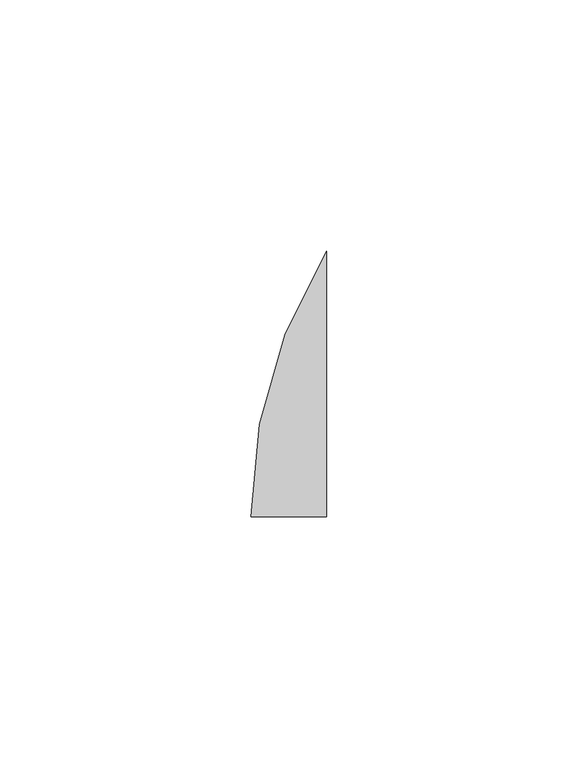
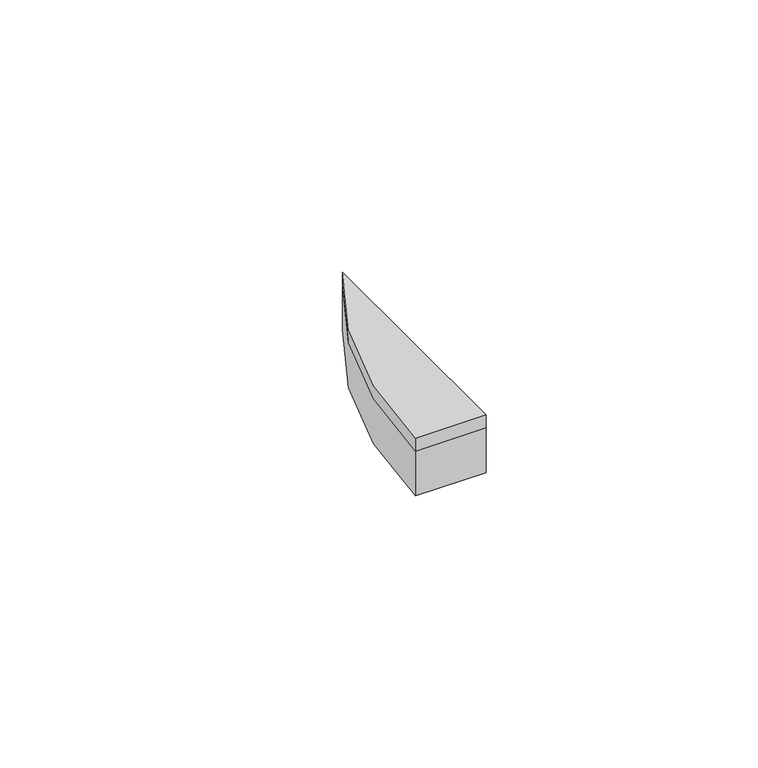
"""IFC4 building model written with IfcOpenShell, lengths in millimetres: proxy geometry, FilzFelt_Fish_Block : Fish Block."""

import ifcopenshell
import ifcopenshell.guid

model = None  # the IFC model being written
_history = None  # IfcOwnerHistory: only IFC2X3 demands one
_inside = {}  # id of a spatial element -> (the spatial element, [elements in it])
_under = {}  # id of a project, library or spatial element -> (it, [spatial elements below it])
_declared = {}  # id of a project -> (the project, [libraries it declares])
_typed = {}  # id of a type object -> (the type object, [elements of that type])
_made_of = {}  # id of a material, layer set ... -> (it, [elements and type objects made of it])


def new_model(schema):
    """Start an empty IFC model of exactly this schema.

    Asked for "IFC4X3", IfcOpenShell would pick the latest addendum, in which some entities
    have other attributes; the version numbers below select the first issue.
    IFC2X3 requires an IfcOwnerHistory on every rooted entity: one is made here for all.
    """
    global model, _history
    if schema == "IFC4X3":
        model = ifcopenshell.file(schema_version=(4, 3, 0, 0))
    else:
        model = ifcopenshell.file(schema=schema)
    _inside.clear()
    _under.clear()
    _declared.clear()
    _typed.clear()
    _made_of.clear()
    _history = None
    if model.schema == "IFC2X3":
        org = make("IfcOrganization", Name="unknown")
        user = make(
            "IfcPersonAndOrganization",
            ThePerson=make("IfcPerson", FamilyName="unknown"),
            TheOrganization=org,
        )
        app = make(
            "IfcApplication",
            ApplicationDeveloper=org,
            Version="unknown",
            ApplicationFullName="unknown",
            ApplicationIdentifier="unknown",
        )
        _history = make(
            "IfcOwnerHistory",
            OwningUser=user,
            OwningApplication=app,
            ChangeAction="ADDED",
            CreationDate=0,
        )
    return model


def make(cls, **values):
    """One entity of the class cls with the attributes given. An attribute that is None is left unset."""
    return model.create_entity(
        cls, **{name: value for name, value in values.items() if value is not None}
    )


def rooted(cls, **values):
    """An entity with a GlobalId (a new one), such as an element, a storey or a relation."""
    return make(cls, GlobalId=ifcopenshell.guid.new(), OwnerHistory=_history, **values)


def si_unit(unit_type, name, prefix=None):
    """IfcSIUnit, for example si_unit("LENGTHUNIT", "METRE", prefix="MILLI")."""
    return make("IfcSIUnit", UnitType=unit_type, Prefix=prefix, Name=name)


def assignment(units):
    """IfcUnitAssignment: the units of a project."""
    return None if units is None else make("IfcUnitAssignment", Units=units)


def point(xyz):
    """IfcCartesianPoint."""
    return None if xyz is None else make("IfcCartesianPoint", Coordinates=xyz)


def direction(xyz):
    """IfcDirection."""
    return None if xyz is None else make("IfcDirection", DirectionRatios=xyz)


def frame(location, z_axis=None, x_axis=None):
    """IfcAxis2Placement3D, a coordinate frame: its origin and axes. An axis left out is left unset."""
    return make(
        "IfcAxis2Placement3D",
        Location=point(location),
        Axis=direction(z_axis),
        RefDirection=direction(x_axis),
    )


def frame_2d(location, x_axis=None):
    """IfcAxis2Placement2D, a coordinate frame in the plane: its origin and x axis."""
    return make(
        "IfcAxis2Placement2D", Location=point(location), RefDirection=direction(x_axis)
    )


def origin():
    """The frame at (0, 0, 0) with its axes left unset."""
    return frame((0.0, 0.0, 0.0))


def origin_with_axes():
    """The frame at (0, 0, 0) with the z axis (0, 0, 1) and the x axis (1, 0, 0) written out."""
    return frame((0.0, 0.0, 0.0), z_axis=(0.0, 0.0, 1.0), x_axis=(1.0, 0.0, 0.0))


def place(relative_to, where):
    """IfcLocalPlacement: puts the frame where relative to a parent placement (None: the world)."""
    return make(
        "IfcLocalPlacement", PlacementRelTo=relative_to, RelativePlacement=where
    )


def context(
    kind, dimensions, precision=None, world=None, true_north=None, identifier=None
):
    """IfcGeometricRepresentationContext, for example the 3D "Model" context."""
    return make(
        "IfcGeometricRepresentationContext",
        ContextIdentifier=identifier,
        ContextType=kind,
        CoordinateSpaceDimension=dimensions,
        Precision=precision,
        WorldCoordinateSystem=world,
        TrueNorth=true_north,
    )


def project(units=None, contexts=None):
    """IfcProject with its units and contexts."""
    return rooted(
        "IfcProject",
        Name="project",
        RepresentationContexts=contexts,
        UnitsInContext=assignment(units),
    )


def spatial(cls, under=None, at=None, **own):
    """A site, building, storey or space (cls), placed at a placement, below another one or the project."""
    s = rooted(cls, ObjectPlacement=at, **own)
    if under is not None:
        _under.setdefault(under.id(), (under, []))[1].append(s)
    return s


def polyline(points):
    """IfcPolyline through the points."""
    return make("IfcPolyline", Points=[point(p) for p in points])


def circle_curve(where, radius):
    """IfcCircle in the frame where."""
    return make("IfcCircle", Position=where, Radius=radius)


def trimmed(basis, trim1, trim2, sense, master):
    """IfcTrimmedCurve: the piece of a basis curve between two trims."""
    return make(
        "IfcTrimmedCurve",
        BasisCurve=basis,
        Trim1=trim1,
        Trim2=trim2,
        SenseAgreement=sense,
        MasterRepresentation=master,
    )


def segment(curve, same_sense, transition):
    """IfcCompositeCurveSegment."""
    return make(
        "IfcCompositeCurveSegment",
        Transition=transition,
        SameSense=same_sense,
        ParentCurve=curve,
    )


def composite_curve(segments, self_intersect=None):
    """IfcCompositeCurve: segments joined end to end."""
    return make("IfcCompositeCurve", Segments=segments, SelfIntersect=self_intersect)


def outline(outer, holes=None, kind="AREA"):
    """IfcArbitraryClosedProfileDef: a profile drawn as a closed curve; with holes, ...WithVoids."""
    if holes is None:
        return make("IfcArbitraryClosedProfileDef", ProfileType=kind, OuterCurve=outer)
    return make(
        "IfcArbitraryProfileDefWithVoids",
        ProfileType=kind,
        OuterCurve=outer,
        InnerCurves=holes,
    )


def extrude(swept, where, along, depth):
    """IfcExtrudedAreaSolid: the profile swept, set in the frame where, extruded along a direction by depth."""
    return make(
        "IfcExtrudedAreaSolid",
        SweptArea=swept,
        Position=where,
        ExtrudedDirection=direction(along),
        Depth=depth,
    )


def shape(context_of_items, identifier, shape_type, items):
    """IfcShapeRepresentation: the items that make up one representation, for example the "Body"."""
    return make(
        "IfcShapeRepresentation",
        ContextOfItems=context_of_items,
        RepresentationIdentifier=identifier,
        RepresentationType=shape_type,
        Items=items,
    )


def source(mapping_origin, context_of_items, identifier, shape_type, items):
    """IfcRepresentationMap: a shape defined once, which mapped items show again and again."""
    return make(
        "IfcRepresentationMap",
        MappingOrigin=mapping_origin,
        MappedRepresentation=shape(context_of_items, identifier, shape_type, items),
    )


def transform(
    local_origin,
    x_axis=None,
    y_axis=None,
    z_axis=None,
    scale=None,
    scale2=None,
    scale3=None,
    uniform=True,
):
    """IfcCartesianTransformationOperator3D, or its non-uniform kind. x_axis, y_axis, z_axis: its Axis1, 2, 3."""
    if uniform:
        return make(
            "IfcCartesianTransformationOperator3D",
            Axis1=direction(x_axis),
            Axis2=direction(y_axis),
            LocalOrigin=point(local_origin),
            Scale=scale,
            Axis3=direction(z_axis),
        )
    return make(
        "IfcCartesianTransformationOperator3DnonUniform",
        Axis1=direction(x_axis),
        Axis2=direction(y_axis),
        LocalOrigin=point(local_origin),
        Scale=scale,
        Axis3=direction(z_axis),
        Scale2=scale2,
        Scale3=scale3,
    )


def mapped(mapping_source, mapping_target):
    """IfcMappedItem: shows the shape of a source again, moved by a transform."""
    return make(
        "IfcMappedItem", MappingSource=mapping_source, MappingTarget=mapping_target
    )


def made_of(thing, what):
    """Note that an element or type object is made of a material, layer set ...; save() writes the relation."""
    if what is not None:
        _made_of.setdefault(what.id(), (what, []))[1].append(thing)
    return thing


def element(
    cls,
    number,
    at=None,
    inside=None,
    cuts=None,
    type_object=None,
    material=None,
    context=None,
    identifier="Body",
    shape_type=None,
    held_by="IfcProductDefinitionShape",
    body=None,
    shapes=None,
    **own,
):
    """One element of the class cls, such as IfcWall. Its Tag is "e" and its number.

    at: its placement. inside: the storey or other place that contains it. cuts: it is an
    opening in that element (IfcRelVoidsElement). A single representation is given by context,
    identifier, shape_type and body (its items); several are given by shapes. held_by: the class
    of the entity that holds the representations. save() writes the other relations.
    """
    e = rooted(cls, Tag="e%d" % number, ObjectPlacement=at, **own)
    if body is not None:
        shapes = [shape(context, identifier, shape_type, body)]
    if shapes is not None:
        e.Representation = make(held_by, Representations=shapes)
    if inside is not None:
        _inside.setdefault(inside.id(), (inside, []))[1].append(e)
    if cuts is not None:
        rooted(
            "IfcRelVoidsElement", RelatingBuildingElement=cuts, RelatedOpeningElement=e
        )
    if type_object is not None:
        _typed.setdefault(type_object.id(), (type_object, []))[1].append(e)
    return made_of(e, material)


def aggregate(whole, parts):
    """IfcRelAggregates: a whole, such as a stair, and the parts it consists of."""
    return rooted("IfcRelAggregates", RelatingObject=whole, RelatedObjects=parts)


def save(model, path):
    """Write the relations noted so far, then the file.

    IfcRelAggregates (storeys below a building ...), IfcRelContainedInSpatialStructure (elements
    in a storey), IfcRelDefinesByType, IfcRelAssociatesMaterial and IfcRelDeclares: one each for
    every whole, place, type object, material and project.
    """
    for whole, parts in _under.values():
        aggregate(whole, parts)
    for where, things in _inside.values():
        rooted(
            "IfcRelContainedInSpatialStructure",
            RelatedElements=things,
            RelatingStructure=where,
        )
    for kind, things in _typed.values():
        rooted("IfcRelDefinesByType", RelatedObjects=things, RelatingType=kind)
    for what, things in _made_of.values():
        rooted("IfcRelAssociatesMaterial", RelatedObjects=things, RelatingMaterial=what)
    for by, libraries in _declared.values():
        rooted("IfcRelDeclares", RelatingContext=by, RelatedDefinitions=libraries)
    model.write(path)


def specialty_equipment_9e3873a9(model_context):
    return source(origin(), model_context, "Body", "SweptSolid", [
        extrude(outline(composite_curve([segment(polyline([(-65.6962821, 0.0), (-80.7142226, 0.0)]), True, "CONTINUOUS"), segment(trimmed(circle_curve(frame_2d((19.5151403, 0.0)), 100.2293629), [point((-80.7142226, 0.0))], [point((-65.6962821, 52.7725183))], False, "CARTESIAN"), True, "CONTINUOUS"), segment(polyline([(-65.6962821, 52.7725183), (-65.6962821, 0.0)]), True, "CONTINUOUS")], self_intersect=False)), frame((0.0, 0.0, 10.0210937), z_axis=(0.0, 0.0, 1.0), x_axis=(1.0, 0.0, 0.0)), (0.0, 0.0, 1.0), 2.9765625),
        extrude(outline(composite_curve([segment(polyline([(-65.6962821, 0.0), (-80.7142226, 0.0)]), True, "CONTINUOUS"), segment(trimmed(circle_curve(frame_2d((19.5151403, 0.0)), 100.2293629), [point((-80.7142226, 0.0))], [point((-65.6962821, 52.7725183))], False, "CARTESIAN"), True, "CONTINUOUS"), segment(polyline([(-65.6962821, 52.7725183), (-65.6962821, 0.0)]), True, "CONTINUOUS")], self_intersect=False)), origin_with_axes(), (0.0, 0.0, 1.0), 10.0210938),
    ])


if __name__ == "__main__":
    model = new_model("IFC4")
    model_context = context("Model", 3, world=origin())
    ifc_project = project(units=[si_unit("LENGTHUNIT", "METRE", prefix="MILLI")], contexts=[model_context])
    site = spatial("IfcSite", under=ifc_project)
    building = spatial("IfcBuilding", under=site)
    placement = place(None, origin())
    specialty_equipment_shape = specialty_equipment_9e3873a9(model_context)
    element("IfcBuildingElementProxy", 1, Name="FilzFelt_Fish_Block : Fish Block", ObjectType="FilzFelt_Fish_Block : Fish Block", at=placement, inside=building, context=model_context, shape_type="MappedRepresentation", body=[
        mapped(specialty_equipment_shape, transform((0.0, 0.0, 0.0), x_axis=(1.0, 0.0, 0.0), y_axis=(0.0, 1.0, 0.0), z_axis=(0.0, 0.0, 1.0))),
    ])
    save(model, "model.ifc")
